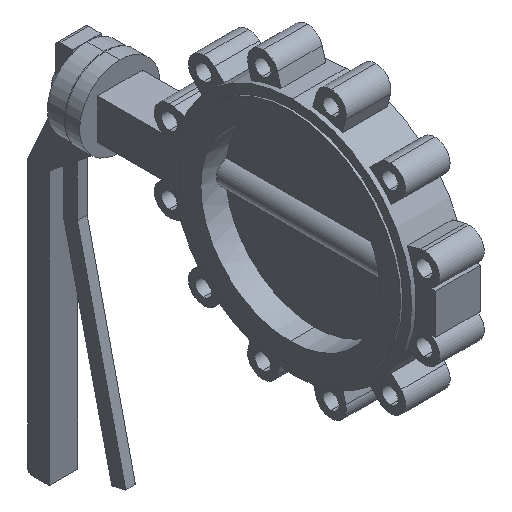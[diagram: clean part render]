
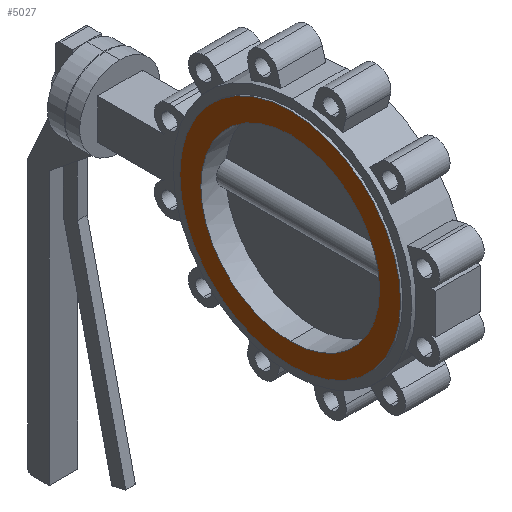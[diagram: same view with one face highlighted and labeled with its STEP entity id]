
A CAD part, isometric view. The second image highlights one B-rep face of the part: STEP entity #5027.
In plain terms, the highlighted planar face has unit normal (-1, 0, 0).
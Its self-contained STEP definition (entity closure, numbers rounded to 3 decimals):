
#285 = AXIS2_PLACEMENT_3D ( 'NONE', #1767, #1317, #6140 ) ;
#364 = AXIS2_PLACEMENT_3D ( 'NONE', #3834, #4265, #1573 ) ;
#641 = DIRECTION ( 'NONE',  ( 0., 0., -1. ) ) ;
#915 = VERTEX_POINT ( 'NONE', #5023 ) ;
#968 = CARTESIAN_POINT ( 'NONE',  ( -32.5, 0., 0. ) ) ;
#1006 = FACE_BOUND ( 'NONE', #2879, .T. ) ;
#1317 = DIRECTION ( 'NONE',  ( 1., 0., 0. ) ) ;
#1538 = DIRECTION ( 'NONE',  ( 0., 0., -1. ) ) ;
#1573 = DIRECTION ( 'NONE',  ( 0., 0., -1. ) ) ;
#1767 = CARTESIAN_POINT ( 'NONE',  ( -32.5, 0., 0. ) ) ;
#1923 = EDGE_CURVE ( 'NONE', #7033, #6442, #5115, .T. ) ;
#2091 = EDGE_CURVE ( 'NONE', #915, #2557, #2678, .T. ) ;
#2126 = DIRECTION ( 'NONE',  ( 1., 0., 0. ) ) ;
#2181 = CIRCLE ( 'NONE', #3567, 100. ) ;
#2308 = CARTESIAN_POINT ( 'NONE',  ( -32.5, 0., 123.5 ) ) ;
#2557 = VERTEX_POINT ( 'NONE', #2955 ) ;
#2678 = CIRCLE ( 'NONE', #3249, 100. ) ;
#2879 = EDGE_LOOP ( 'NONE', ( #4739, #5614 ) ) ;
#2955 = CARTESIAN_POINT ( 'NONE',  ( -32.5, 0., -100. ) ) ;
#3034 = EDGE_CURVE ( 'NONE', #2557, #915, #2181, .T. ) ;
#3055 = CARTESIAN_POINT ( 'NONE',  ( -32.5, 0., 0. ) ) ;
#3128 = DIRECTION ( 'NONE',  ( 0., 0., -1. ) ) ;
#3249 = AXIS2_PLACEMENT_3D ( 'NONE', #968, #5925, #3128 ) ;
#3276 = ORIENTED_EDGE ( 'NONE', *, *, #5775, .F. ) ;
#3567 = AXIS2_PLACEMENT_3D ( 'NONE', #5595, #2126, #641 ) ;
#3811 = CIRCLE ( 'NONE', #364, 123.5 ) ;
#3834 = CARTESIAN_POINT ( 'NONE',  ( -32.5, 0., 0. ) ) ;
#4112 = FACE_OUTER_BOUND ( 'NONE', #5133, .T. ) ;
#4223 = DIRECTION ( 'NONE',  ( 1., 0., 0. ) ) ;
#4265 = DIRECTION ( 'NONE',  ( 1., 0., 0. ) ) ;
#4383 = CARTESIAN_POINT ( 'NONE',  ( -32.5, 0., -123.5 ) ) ;
#4572 = ORIENTED_EDGE ( 'NONE', *, *, #1923, .F. ) ;
#4611 = AXIS2_PLACEMENT_3D ( 'NONE', #3055, #4223, #1538 ) ;
#4739 = ORIENTED_EDGE ( 'NONE', *, *, #2091, .T. ) ;
#5023 = CARTESIAN_POINT ( 'NONE',  ( -32.5, 0., 100. ) ) ;
#5027 = ADVANCED_FACE ( 'NONE', ( #4112, #1006 ), #5824, .F. ) ;
#5115 = CIRCLE ( 'NONE', #285, 123.5 ) ;
#5133 = EDGE_LOOP ( 'NONE', ( #4572, #3276 ) ) ;
#5595 = CARTESIAN_POINT ( 'NONE',  ( -32.5, 0., 0. ) ) ;
#5614 = ORIENTED_EDGE ( 'NONE', *, *, #3034, .T. ) ;
#5775 = EDGE_CURVE ( 'NONE', #6442, #7033, #3811, .T. ) ;
#5824 = PLANE ( 'NONE',  #4611 ) ;
#5925 = DIRECTION ( 'NONE',  ( 1., 0., 0. ) ) ;
#6140 = DIRECTION ( 'NONE',  ( 0., 0., -1. ) ) ;
#6442 = VERTEX_POINT ( 'NONE', #4383 ) ;
#7033 = VERTEX_POINT ( 'NONE', #2308 ) ;
